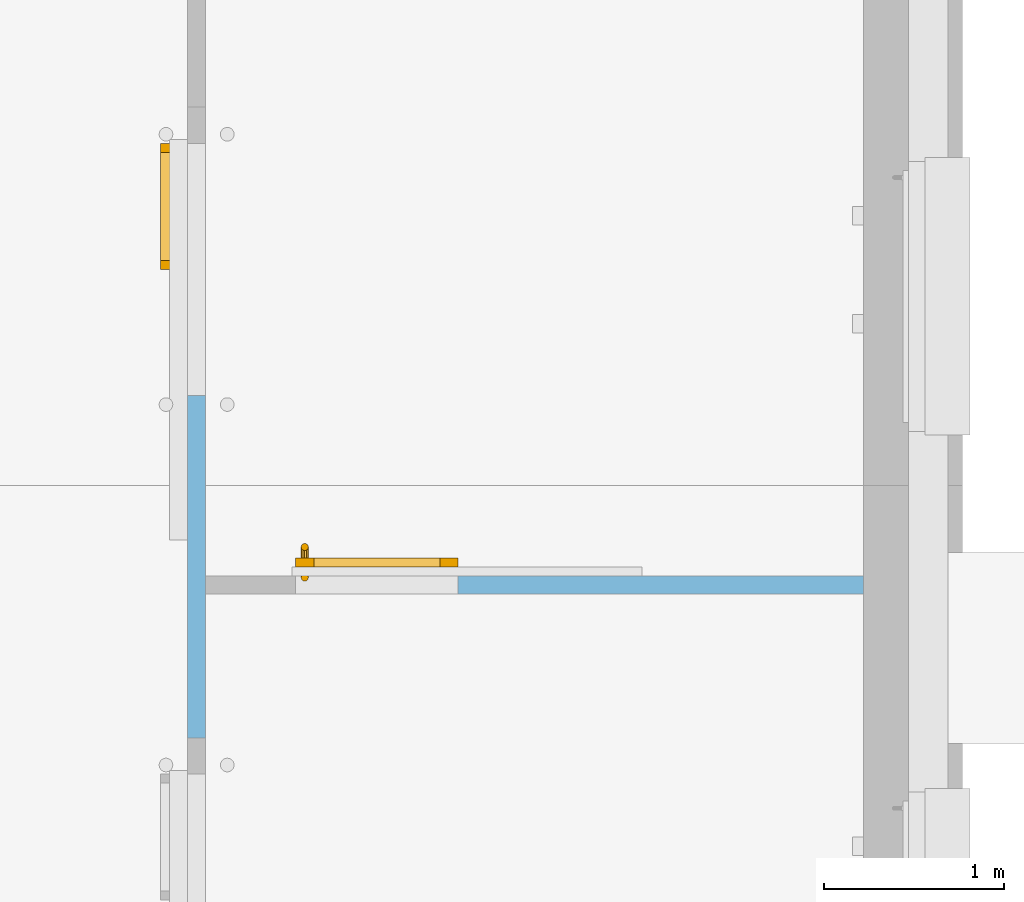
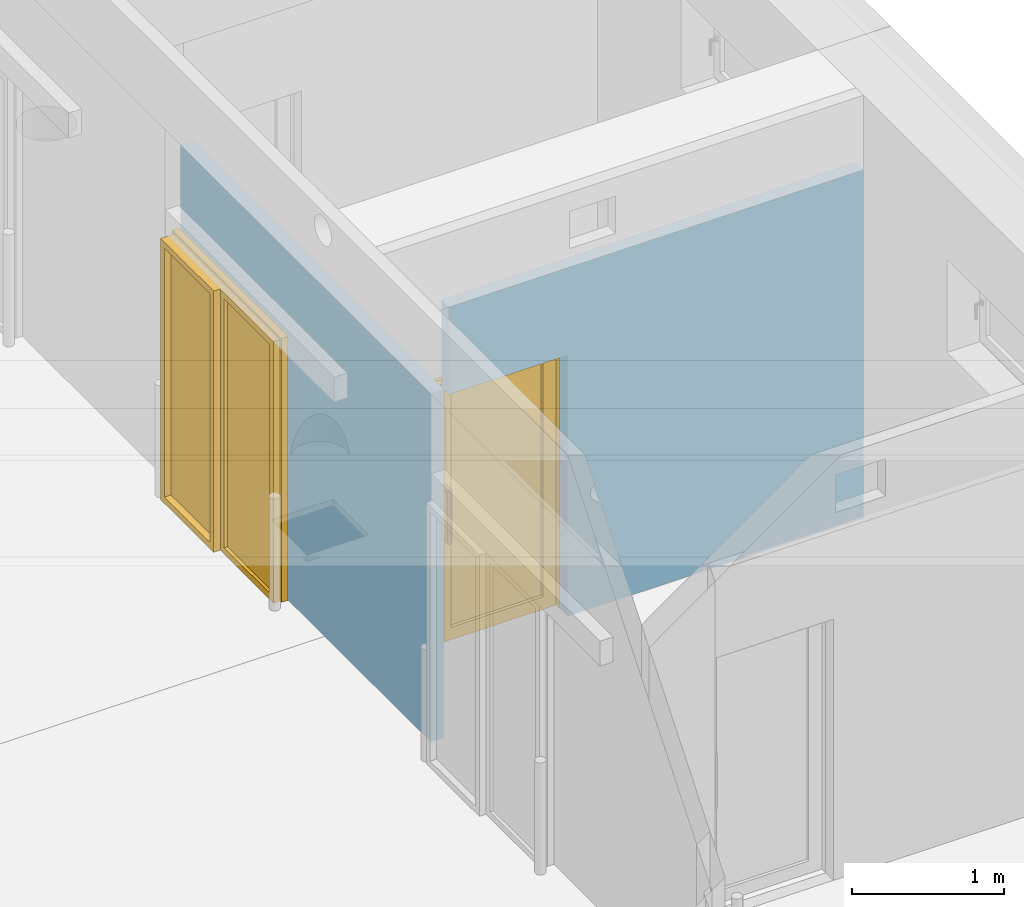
# One storey, part 114 of 140: 2 doors, 2 openings, plus 2 elements that do not belong to this part.
"""IFC4 building model written with IfcOpenShell, lengths in metres."""

from ifc_helpers import new_model, entity, si_unit, converted_unit, derived_unit, frame, frame_2d, origin, origin_with_axes, place, context, subcontext, project, spatial, polyline, rectangle, outline, extrude, closed_shell, open_shell, surface_model, source, transform, mapped, material, layer, layer_set, layer_usage, type_object, element, fill, save


model = new_model("IFC4")

# Units and contexts
model_context = context("Model", 3, precision=1e-05, world=origin())
body_context = subcontext(model_context, "Body", "Model", "MODEL_VIEW")
ifc_project = project(units=[si_unit("LENGTHUNIT", "METRE"), si_unit("AREAUNIT", "SQUARE_METRE"), si_unit("VOLUMEUNIT", "CUBIC_METRE"), si_unit("MASSUNIT", "GRAM", prefix="KILO"), converted_unit("PLANEANGLEUNIT", "DEGREE", entity("IfcPlaneAngleMeasure", 0.0174532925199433), si_unit("PLANEANGLEUNIT", "RADIAN"), dimensions=[0, 0, 0, 0, 0, 0, 0]), derived_unit("THERMALTRANSMITTANCEUNIT", [(si_unit("POWERUNIT", "WATT"), 1), (si_unit("THERMODYNAMICTEMPERATUREUNIT", "KELVIN"), -1), (si_unit("LENGTHUNIT", "METRE"), -2)]), derived_unit("VOLUMETRICFLOWRATEUNIT", [(si_unit("LENGTHUNIT", "METRE"), 3), (converted_unit("TIMEUNIT", "hour", entity("IfcTimeMeasure", 3600.0), si_unit("TIMEUNIT", "SECOND"), dimensions=[0, 0, 1, 0, 0, 0, 0]), -1), (si_unit("LENGTHUNIT", "METRE"), -1)])], contexts=[model_context])

# Site, building, storey
site_placement = place(None, origin())
site = spatial("IfcSite", under=ifc_project, at=site_placement, Name="3. ASŘ", CompositionType="ELEMENT")
building_placement = place(site_placement, origin())
building = spatial("IfcBuilding", under=site, at=building_placement, Name="Pavilon C", CompositionType="ELEMENT")
storey_placement = place(building_placement, origin())
storey = spatial("IfcBuildingStorey", under=building, at=storey_placement, Name="Půdorys 1.NP", CompositionType="ELEMENT", Elevation=0.0)

# Wall, opening, door
ifc_material_1 = material(Name="PROSKLENÁ PŘÍČKA DVOJITÁ")
ifc_layer_1 = layer(ifc_material_1, 0.1)
ifc_layer_set_1 = layer_set([ifc_layer_1])
ifc_layer_usage_1 = layer_usage(ifc_layer_set_1, "AXIS2", "POSITIVE", 0.0)
wall_1_placement = place(storey_placement, frame((59.8, 19.5, 0.0), z_axis=(0.0, 0.0, 1.0), x_axis=(0.0, -1.0, 0.0)))
wall_1 = element("IfcWall", 1, at=wall_1_placement, inside=storey, material=ifc_layer_usage_1, Name="PROSKLENÁ PŘÍČKA DVOJITÁ", context=body_context, shape_type="SweptSolid", body=[
    extrude(rectangle(XDim=3.29999999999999, YDim=0.1, at=frame_2d((1.65, 0.05), x_axis=(1.0, 0.0))), origin_with_axes(), (0.0, 0.0, 1.0), 2.8),
])
opening_1_placement = place(wall_1_placement, frame((0.0, 0.0, 0.0), z_axis=(0.0, 1.0, 0.0), x_axis=(0.0, 0.0, 1.0)))
opening_1 = element("IfcOpeningElement", 2, at=opening_1_placement, cuts=wall_1, Name="Dveřní otvor", ObjectType="Opening", context=body_context, shape_type="SweptSolid", body=[
    extrude(outline(polyline([(0.0, 1.4), (2.1, 1.4), (2.1, 0.0), (0.0, 0.0), (0.0, 1.4)])), origin_with_axes(), (0.0, 0.0, 1.0), 0.1),
])
door_type_1 = type_object("IfcDoorType", Name="I.DH17", OperationType="NOTDEFINED", ParameterTakesPrecedence=False, PredefinedType="DOOR")
shared_shape_1 = source(origin_with_axes(), body_context, "Body", "SurfaceModel", [
    surface_model("IfcShellBasedSurfaceModel", [(0.0, 0.0500000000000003, 2.12), (0.0, 0.05, 1.11492377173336e-17), (0.02, 0.05, 1.11492377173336e-17), (0.02, 0.0500000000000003, 2.12), (0.0, 0.0, 1.72724717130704e-17), (0.0, 2.62900812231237e-16, 2.12), (0.02, 2.62900812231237e-16, 2.12), (0.02, 0.0, 1.72724717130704e-17)], [closed_shell([[[0, 1, 2, 3]], [[4, 5, 6, 7]], [[1, 0, 5, 4]], [[2, 1, 4, 7]], [[3, 2, 7, 6]], [[0, 3, 6, 5]]], orient=[[False], [False], [False], [False], [False], [False]])]),
    surface_model("IfcShellBasedSurfaceModel", [(1.42, 0.0500000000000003, 2.12), (1.42, 0.05, 1.11492377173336e-17), (1.44, 0.05, 1.11492377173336e-17), (1.44, 0.0500000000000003, 2.12), (1.42, 0.0, 1.72724717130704e-17), (1.42, 2.62900812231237e-16, 2.12), (1.44, 2.62900812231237e-16, 2.12), (1.44, 0.0, 1.72724717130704e-17)], [closed_shell([[[0, 1, 2, 3]], [[4, 5, 6, 7]], [[1, 0, 5, 4]], [[2, 1, 4, 7]], [[3, 2, 7, 6]], [[0, 3, 6, 5]]], orient=[[False], [False], [False], [False], [False], [False]])]),
    surface_model("IfcShellBasedSurfaceModel", [(0.02, 0.0500000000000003, 2.12), (0.02, 0.0500000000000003, 2.1), (1.42, 0.0500000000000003, 2.1), (1.42, 0.0500000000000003, 2.12), (0.02, 2.55795384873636e-16, 2.1), (0.02, 2.55795384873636e-16, 2.12), (1.42, 2.55795384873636e-16, 2.12), (1.42, 2.55795384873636e-16, 2.1)], [closed_shell([[[0, 1, 2, 3]], [[4, 5, 6, 7]], [[1, 0, 5, 4]], [[2, 1, 4, 7]], [[3, 2, 7, 6]], [[0, 3, 6, 5]]], orient=[[False], [False], [False], [False], [False], [False]])]),
    surface_model("IfcShellBasedSurfaceModel", [(0.02, 0.1, 2.1), (0.02, 0.1, 5.02600372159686e-18), (0.07, 0.1, 5.02600372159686e-18), (0.07, 0.1, 2.1), (0.02, 0.05, 1.11492377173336e-17), (0.02, 0.0500000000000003, 2.1), (0.07, 0.0500000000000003, 2.1), (0.07, 0.05, 1.11492377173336e-17)], [closed_shell([[[0, 1, 2, 3]], [[4, 5, 6, 7]], [[1, 0, 5, 4]], [[2, 1, 4, 7]], [[3, 2, 7, 6]], [[0, 3, 6, 5]]], orient=[[False], [False], [False], [False], [False], [False]])]),
    surface_model("IfcShellBasedSurfaceModel", [(0.6695, 0.1, 2.1), (0.6695, 0.1, 5.02600372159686e-18), (0.7195, 0.1, 5.02600372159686e-18), (0.7195, 0.1, 2.1), (0.6695, 0.05, 1.11492377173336e-17), (0.6695, 0.0500000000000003, 2.1), (0.7195, 0.0500000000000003, 2.1), (0.7195, 0.05, 1.11492377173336e-17)], [closed_shell([[[0, 1, 2, 3]], [[4, 5, 6, 7]], [[1, 0, 5, 4]], [[2, 1, 4, 7]], [[3, 2, 7, 6]], [[0, 3, 6, 5]]], orient=[[False], [False], [False], [False], [False], [False]])]),
    surface_model("IfcShellBasedSurfaceModel", [(0.07, 0.1, 0.05), (0.07, 0.1, 5.02600372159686e-18), (0.6695, 0.1, 5.02600372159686e-18), (0.6695, 0.1, 0.05), (0.07, 0.05, 1.11492377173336e-17), (0.07, 0.05, 0.05), (0.6695, 0.05, 0.05), (0.6695, 0.05, 1.11492377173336e-17)], [closed_shell([[[0, 1, 2, 3]], [[4, 5, 6, 7]], [[1, 0, 5, 4]], [[2, 1, 4, 7]], [[3, 2, 7, 6]], [[0, 3, 6, 5]]], orient=[[False], [False], [False], [False], [False], [False]])]),
    surface_model("IfcShellBasedSurfaceModel", [(0.07, 0.1, 2.1), (0.07, 0.1, 2.05), (0.6695, 0.1, 2.05), (0.6695, 0.1, 2.1), (0.07, 0.0500000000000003, 2.05), (0.07, 0.0500000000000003, 2.1), (0.6695, 0.0500000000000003, 2.1), (0.6695, 0.0500000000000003, 2.05)], [closed_shell([[[0, 1, 2, 3]], [[4, 5, 6, 7]], [[1, 0, 5, 4]], [[2, 1, 4, 7]], [[3, 2, 7, 6]], [[0, 3, 6, 5]]], orient=[[False], [False], [False], [False], [False], [False]])]),
    surface_model("IfcShellBasedSurfaceModel", [(0.7205, 0.15, 2.1), (0.7205, 0.15, -1.09723027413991e-18), (0.7705, 0.15, -1.09723027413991e-18), (0.7705, 0.15, 2.1), (0.7205, 0.05, 1.11492377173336e-17), (0.7205, 0.0500000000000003, 2.1), (0.7705, 0.0500000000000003, 2.1), (0.7705, 0.05, 1.11492377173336e-17)], [closed_shell([[[0, 1, 2, 3]], [[4, 5, 6, 7]], [[1, 0, 5, 4]], [[2, 1, 4, 7]], [[3, 2, 7, 6]], [[0, 3, 6, 5]]], orient=[[False], [False], [False], [False], [False], [False]])]),
    surface_model("IfcShellBasedSurfaceModel", [(1.37, 0.15, 2.1), (1.37, 0.15, -1.09723027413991e-18), (1.42, 0.15, -1.09723027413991e-18), (1.42, 0.15, 2.1), (1.37, 0.05, 1.11492377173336e-17), (1.37, 0.0500000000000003, 2.1), (1.42, 0.0500000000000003, 2.1), (1.42, 0.05, 1.11492377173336e-17)], [closed_shell([[[0, 1, 2, 3]], [[4, 5, 6, 7]], [[1, 0, 5, 4]], [[2, 1, 4, 7]], [[3, 2, 7, 6]], [[0, 3, 6, 5]]], orient=[[False], [False], [False], [False], [False], [False]])]),
    surface_model("IfcShellBasedSurfaceModel", [(0.7705, 0.15, 0.05), (0.7705, 0.15, -1.09723027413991e-18), (1.37, 0.15, -1.09723027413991e-18), (1.37, 0.15, 0.05), (0.7705, 0.05, 1.11492377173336e-17), (0.7705, 0.05, 0.05), (1.37, 0.05, 0.05), (1.37, 0.05, 1.11492377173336e-17)], [closed_shell([[[0, 1, 2, 3]], [[4, 5, 6, 7]], [[1, 0, 5, 4]], [[2, 1, 4, 7]], [[3, 2, 7, 6]], [[0, 3, 6, 5]]], orient=[[False], [False], [False], [False], [False], [False]])]),
    surface_model("IfcShellBasedSurfaceModel", [(0.7705, 0.15, 2.1), (0.7705, 0.15, 2.05), (1.37, 0.15, 2.05), (1.37, 0.15, 2.1), (0.7705, 0.0500000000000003, 2.05), (0.7705, 0.0500000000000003, 2.1), (1.37, 0.0500000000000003, 2.1), (1.37, 0.0500000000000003, 2.05)], [closed_shell([[[0, 1, 2, 3]], [[4, 5, 6, 7]], [[1, 0, 5, 4]], [[2, 1, 4, 7]], [[3, 2, 7, 6]], [[0, 3, 6, 5]]], orient=[[False], [False], [False], [False], [False], [False]])]),
    surface_model("IfcShellBasedSurfaceModel", [(0.07, 0.075, 0.05), (0.6695, 0.075, 0.05), (0.6695, 0.0750000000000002, 2.05), (0.07, 0.0750000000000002, 2.05)], [open_shell([[[0, 1, 2, 3]]], orient=[[False]])]),
    surface_model("IfcShellBasedSurfaceModel", [(0.7705, 0.1, 0.05), (1.37, 0.1, 0.05), (1.37, 0.1, 2.05), (0.7705, 0.1, 2.05)], [open_shell([[[0, 1, 2, 3]]], orient=[[False]])]),
])
door_1_placement = place(opening_1_placement, frame((0.0, 1.42000000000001, -1.45519152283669e-14), z_axis=(1.0, 0.0, 0.0), x_axis=(0.0, -1.0, 1.22464679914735e-16)))
door_1 = element("IfcDoor", 3, at=door_1_placement, inside=storey, type_object=door_type_1, Name="I.DH17", OverallHeight=2.14, OverallWidth=1.48, context=body_context, shape_type="MappedRepresentation", body=[
    mapped(shared_shape_1, transform((0.0, 0.0, 0.0), x_axis=(1.0, 0.0, 0.0), y_axis=(0.0, 1.0, 0.0), z_axis=(0.0, 0.0, 1.0), scale=1.0)),
])
fill(opening_1, door_1)

ifc_material_2 = material(Name="PROSKLENÁ PŘÍČKA DVOJITÁ")
ifc_layer_2 = layer(ifc_material_2, 0.1)
ifc_layer_set_2 = layer_set([ifc_layer_2])
ifc_layer_usage_2 = layer_usage(ifc_layer_set_2, "AXIS2", "POSITIVE", 0.0)
wall_2_placement = place(storey_placement, frame((60.4, 17.0, 0.0)))
wall_2 = element("IfcWall", 4, at=wall_2_placement, inside=storey, material=ifc_layer_usage_2, Name="PROSKLENÁ PŘÍČKA DVOJITÁ", context=body_context, shape_type="SweptSolid", body=[
    extrude(rectangle(XDim=3.15, YDim=0.1, at=frame_2d((1.575, 0.05), x_axis=(1.0, 0.0))), origin_with_axes(), (0.0, 0.0, 1.0), 2.8),
])
opening_2_placement = place(wall_2_placement, frame((0.0, 0.0, 0.0), z_axis=(0.0, 1.0, 0.0), x_axis=(0.0, 0.0, 1.0)))
opening_2 = element("IfcOpeningElement", 5, at=opening_2_placement, cuts=wall_2, Name="Dveřní otvor", ObjectType="Opening", context=body_context, shape_type="SweptSolid", body=[
    extrude(outline(polyline([(0.0, 0.9), (2.1, 0.9), (2.1, 0.0), (0.0, 0.0), (0.0, 0.9)])), origin_with_axes(), (0.0, 0.0, 1.0), 0.1),
])
door_type_2 = type_object("IfcDoorType", Name="I.DHP02", OperationType="NOTDEFINED", ParameterTakesPrecedence=False, PredefinedType="DOOR")
shared_shape_2 = source(origin_with_axes(), body_context, "Body", "SurfaceModel", [
    surface_model("IfcShellBasedSurfaceModel", [(0.0, 0.0800000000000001, 2.12), (0.0, 0.0799999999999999, 1.11492377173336e-17), (0.02, 0.0799999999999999, 1.11492377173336e-17), (0.02, 0.0800000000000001, 2.12), (0.0, 0.0299999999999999, 1.72724717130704e-17), (0.0, 0.0300000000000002, 2.12), (0.02, 0.0300000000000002, 2.12), (0.02, 0.0299999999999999, 1.72724717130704e-17)], [closed_shell([[[0, 1, 2, 3]], [[4, 5, 6, 7]], [[1, 0, 5, 4]], [[2, 1, 4, 7]], [[3, 2, 7, 6]], [[0, 3, 6, 5]]], orient=[[False], [False], [False], [False], [False], [False]])]),
    surface_model("IfcShellBasedSurfaceModel", [(0.92, 0.0800000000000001, 2.12), (0.92, 0.0799999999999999, 1.11492377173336e-17), (0.94, 0.0799999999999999, 1.11492377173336e-17), (0.94, 0.0800000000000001, 2.12), (0.92, 0.0299999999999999, 1.72724717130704e-17), (0.92, 0.0300000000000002, 2.12), (0.94, 0.0300000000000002, 2.12), (0.94, 0.0299999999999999, 1.72724717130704e-17)], [closed_shell([[[0, 1, 2, 3]], [[4, 5, 6, 7]], [[1, 0, 5, 4]], [[2, 1, 4, 7]], [[3, 2, 7, 6]], [[0, 3, 6, 5]]], orient=[[False], [False], [False], [False], [False], [False]])]),
    surface_model("IfcShellBasedSurfaceModel", [(0.02, 0.0800000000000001, 2.12), (0.02, 0.0800000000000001, 2.1), (0.92, 0.0800000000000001, 2.1), (0.92, 0.0800000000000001, 2.12), (0.02, 0.0300000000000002, 2.1), (0.02, 0.0300000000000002, 2.12), (0.92, 0.0300000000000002, 2.12), (0.92, 0.0300000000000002, 2.1)], [closed_shell([[[0, 1, 2, 3]], [[4, 5, 6, 7]], [[1, 0, 5, 4]], [[2, 1, 4, 7]], [[3, 2, 7, 6]], [[0, 3, 6, 5]]], orient=[[False], [False], [False], [False], [False], [False]])]),
    surface_model("IfcShellBasedSurfaceModel", [(0.02, 0.13, 2.1), (0.02, 0.13, 5.02600372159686e-18), (0.12, 0.13, 5.02600372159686e-18), (0.12, 0.13, 2.1), (0.02, 0.0799999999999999, 1.11492377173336e-17), (0.02, 0.0800000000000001, 2.1), (0.12, 0.0800000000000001, 2.1), (0.12, 0.0799999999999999, 1.11492377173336e-17)], [closed_shell([[[0, 1, 2, 3]], [[4, 5, 6, 7]], [[1, 0, 5, 4]], [[2, 1, 4, 7]], [[3, 2, 7, 6]], [[0, 3, 6, 5]]], orient=[[False], [False], [False], [False], [False], [False]])]),
    surface_model("IfcShellBasedSurfaceModel", [(0.82, 0.13, 2.1), (0.82, 0.13, 5.02600372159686e-18), (0.92, 0.13, 5.02600372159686e-18), (0.92, 0.13, 2.1), (0.82, 0.0799999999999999, 1.11492377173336e-17), (0.82, 0.0800000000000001, 2.1), (0.92, 0.0800000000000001, 2.1), (0.92, 0.0799999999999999, 1.11492377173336e-17)], [closed_shell([[[0, 1, 2, 3]], [[4, 5, 6, 7]], [[1, 0, 5, 4]], [[2, 1, 4, 7]], [[3, 2, 7, 6]], [[0, 3, 6, 5]]], orient=[[False], [False], [False], [False], [False], [False]])]),
    surface_model("IfcShellBasedSurfaceModel", [(0.12, 0.13, 0.1), (0.12, 0.13, 5.02600372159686e-18), (0.82, 0.13, 5.02600372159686e-18), (0.82, 0.13, 0.1), (0.12, 0.0799999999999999, 1.11492377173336e-17), (0.12, 0.0799999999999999, 0.1), (0.82, 0.0799999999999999, 0.1), (0.82, 0.0799999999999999, 1.11492377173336e-17)], [closed_shell([[[0, 1, 2, 3]], [[4, 5, 6, 7]], [[1, 0, 5, 4]], [[2, 1, 4, 7]], [[3, 2, 7, 6]], [[0, 3, 6, 5]]], orient=[[False], [False], [False], [False], [False], [False]])]),
    surface_model("IfcShellBasedSurfaceModel", [(0.12, 0.13, 2.1), (0.12, 0.13, 2.0), (0.82, 0.13, 2.0), (0.82, 0.13, 2.1), (0.12, 0.0800000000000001, 2.0), (0.12, 0.0800000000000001, 2.1), (0.82, 0.0800000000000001, 2.1), (0.82, 0.0800000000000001, 2.0)], [closed_shell([[[0, 1, 2, 3]], [[4, 5, 6, 7]], [[1, 0, 5, 4]], [[2, 1, 4, 7]], [[3, 2, 7, 6]], [[0, 3, 6, 5]]], orient=[[False], [False], [False], [False], [False], [False]])]),
    surface_model("IfcShellBasedSurfaceModel", [(0.89, 0.08, 1.25), (0.887320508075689, 0.08, 1.26), (0.88, 0.08, 1.26732050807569), (0.87, 0.08, 1.27), (0.86, 0.08, 1.26732050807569), (0.852679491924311, 0.08, 1.26), (0.85, 0.08, 1.25), (0.852679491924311, 0.08, 1.24), (0.86, 0.08, 1.23267949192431), (0.87, 0.08, 1.23), (0.88, 0.08, 1.23267949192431), (0.887320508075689, 0.08, 1.24), (0.89, 0.0200000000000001, 1.25), (0.887320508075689, 0.0100000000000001, 1.26), (0.88, 0.00267949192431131, 1.26732050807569), (0.87, 7.105427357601e-17, 1.27), (0.86, 0.00267949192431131, 1.26732050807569), (0.852679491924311, 0.0100000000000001, 1.26), (0.85, 0.0200000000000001, 1.25), (0.852679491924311, 0.0300000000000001, 1.24), (0.86, 0.0373205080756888, 1.23267949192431), (0.87, 0.0400000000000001, 1.23), (0.88, 0.0373205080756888, 1.23267949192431), (0.887320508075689, 0.0300000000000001, 1.24), (0.89, 0.02, 0.85), (0.887320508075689, 0.01, 0.84), (0.88, 0.00267949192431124, 0.832679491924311), (0.87, 0.0, 0.83), (0.86, 0.00267949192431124, 0.832679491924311), (0.852679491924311, 0.01, 0.84), (0.85, 0.02, 0.85), (0.852679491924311, 0.03, 0.86), (0.86, 0.0373205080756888, 0.867320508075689), (0.87, 0.04, 0.87), (0.88, 0.0373205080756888, 0.867320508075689), (0.887320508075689, 0.03, 0.86), (0.89, 0.08, 0.85), (0.887320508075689, 0.08, 0.84), (0.88, 0.08, 0.832679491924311), (0.87, 0.08, 0.83), (0.86, 0.08, 0.832679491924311), (0.852679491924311, 0.08, 0.84), (0.85, 0.08, 0.85), (0.852679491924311, 0.08, 0.86), (0.86, 0.08, 0.867320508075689), (0.87, 0.08, 0.87), (0.88, 0.08, 0.867320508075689), (0.887320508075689, 0.08, 0.86)], [open_shell([[[0, 1, 2, 3, 4, 5, 6, 7, 8, 9, 10, 11]], [[0, 12, 13, 1]], [[1, 13, 14, 2]], [[2, 14, 15, 3]], [[3, 15, 16, 4]], [[4, 16, 17, 5]], [[5, 17, 18, 6]], [[6, 18, 19, 7]], [[7, 19, 20, 8]], [[8, 20, 21, 9]], [[9, 21, 22, 10]], [[10, 22, 23, 11]], [[11, 23, 12, 0]], [[12, 24, 25, 13]], [[13, 25, 26, 14]], [[14, 26, 27, 15]], [[15, 27, 28, 16]], [[16, 28, 29, 17]], [[17, 29, 30, 18]], [[18, 30, 31, 19]], [[19, 31, 32, 20]], [[20, 32, 33, 21]], [[21, 33, 34, 22]], [[22, 34, 35, 23]], [[23, 35, 24, 12]], [[24, 36, 37, 25]], [[25, 37, 38, 26]], [[26, 38, 39, 27]], [[27, 39, 40, 28]], [[28, 40, 41, 29]], [[29, 41, 42, 30]], [[30, 42, 43, 31]], [[31, 43, 44, 32]], [[32, 44, 45, 33]], [[33, 45, 46, 34]], [[34, 46, 47, 35]], [[35, 47, 36, 24]]], orient=[[False], [False], [False], [False], [False], [False], [False], [False], [False], [False], [False], [False], [False], [False], [False], [False], [False], [False], [False], [False], [False], [False], [False], [False], [False], [False], [False], [False], [False], [False], [False], [False], [False], [False], [False], [False], [False]])]),
    surface_model("IfcShellBasedSurfaceModel", [(0.89, 0.13, 1.25), (0.887320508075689, 0.13, 1.24), (0.88, 0.13, 1.23267949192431), (0.87, 0.13, 1.23), (0.86, 0.13, 1.23267949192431), (0.852679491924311, 0.13, 1.24), (0.85, 0.13, 1.25), (0.852679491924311, 0.13, 1.26), (0.86, 0.13, 1.26732050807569), (0.87, 0.13, 1.27), (0.88, 0.13, 1.26732050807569), (0.887320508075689, 0.13, 1.26), (0.887320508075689, 0.2, 1.26), (0.89, 0.19, 1.25), (0.88, 0.207320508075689, 1.26732050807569), (0.87, 0.21, 1.27), (0.86, 0.207320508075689, 1.26732050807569), (0.852679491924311, 0.2, 1.26), (0.85, 0.19, 1.25), (0.852679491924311, 0.18, 1.24), (0.86, 0.172679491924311, 1.23267949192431), (0.87, 0.17, 1.23), (0.88, 0.172679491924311, 1.23267949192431), (0.887320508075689, 0.18, 1.24), (0.887320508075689, 0.2, 0.84), (0.89, 0.19, 0.85), (0.88, 0.207320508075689, 0.832679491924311), (0.87, 0.21, 0.83), (0.86, 0.207320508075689, 0.832679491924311), (0.852679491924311, 0.2, 0.84), (0.85, 0.19, 0.85), (0.852679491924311, 0.18, 0.86), (0.86, 0.172679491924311, 0.867320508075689), (0.87, 0.17, 0.87), (0.88, 0.172679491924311, 0.867320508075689), (0.887320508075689, 0.18, 0.86), (0.887320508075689, 0.13, 0.84), (0.89, 0.13, 0.85), (0.88, 0.13, 0.832679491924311), (0.87, 0.13, 0.83), (0.86, 0.13, 0.832679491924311), (0.852679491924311, 0.13, 0.84), (0.85, 0.13, 0.85), (0.852679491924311, 0.13, 0.86), (0.86, 0.13, 0.867320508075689), (0.87, 0.13, 0.87), (0.88, 0.13, 0.867320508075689), (0.887320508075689, 0.13, 0.86)], [open_shell([[[0, 1, 2, 3, 4, 5, 6, 7, 8, 9, 10, 11]], [[0, 11, 12, 13]], [[11, 10, 14, 12]], [[10, 9, 15, 14]], [[9, 8, 16, 15]], [[8, 7, 17, 16]], [[7, 6, 18, 17]], [[6, 5, 19, 18]], [[5, 4, 20, 19]], [[4, 3, 21, 20]], [[3, 2, 22, 21]], [[2, 1, 23, 22]], [[1, 0, 13, 23]], [[13, 12, 24, 25]], [[12, 14, 26, 24]], [[14, 15, 27, 26]], [[15, 16, 28, 27]], [[16, 17, 29, 28]], [[17, 18, 30, 29]], [[18, 19, 31, 30]], [[19, 20, 32, 31]], [[20, 21, 33, 32]], [[21, 22, 34, 33]], [[22, 23, 35, 34]], [[23, 13, 25, 35]], [[25, 24, 36, 37]], [[24, 26, 38, 36]], [[26, 27, 39, 38]], [[27, 28, 40, 39]], [[28, 29, 41, 40]], [[29, 30, 42, 41]], [[30, 31, 43, 42]], [[31, 32, 44, 43]], [[32, 33, 45, 44]], [[33, 34, 46, 45]], [[34, 35, 47, 46]], [[35, 25, 37, 47]]], orient=[[False], [False], [False], [False], [False], [False], [False], [False], [False], [False], [False], [False], [False], [False], [False], [False], [False], [False], [False], [False], [False], [False], [False], [False], [False], [False], [False], [False], [False], [False], [False], [False], [False], [False], [False], [False], [False]])]),
    surface_model("IfcShellBasedSurfaceModel", [(0.12, 0.105, 0.1), (0.82, 0.105, 0.1), (0.82, 0.105, 2.0), (0.12, 0.105, 2.0)], [open_shell([[[0, 1, 2, 3]]], orient=[[False]])]),
])
door_2_placement = place(opening_2_placement, frame((-1.4210854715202e-17, 0.92, 0.07), z_axis=(1.0, 0.0, 0.0), x_axis=(0.0, -1.0, 0.0)))
door_2 = element("IfcDoor", 6, at=door_2_placement, inside=storey, type_object=door_type_2, Name="I.DHP02", OverallHeight=2.14, OverallWidth=0.98, context=body_context, shape_type="MappedRepresentation", body=[
    mapped(shared_shape_2, transform((0.0, 0.0, 0.0), x_axis=(1.0, 0.0, 0.0), y_axis=(0.0, -1.0, 0.0), z_axis=(0.0, 0.0, 1.0), scale=1.0)),
])
fill(opening_2, door_2)

save(model, "model.ifc")
